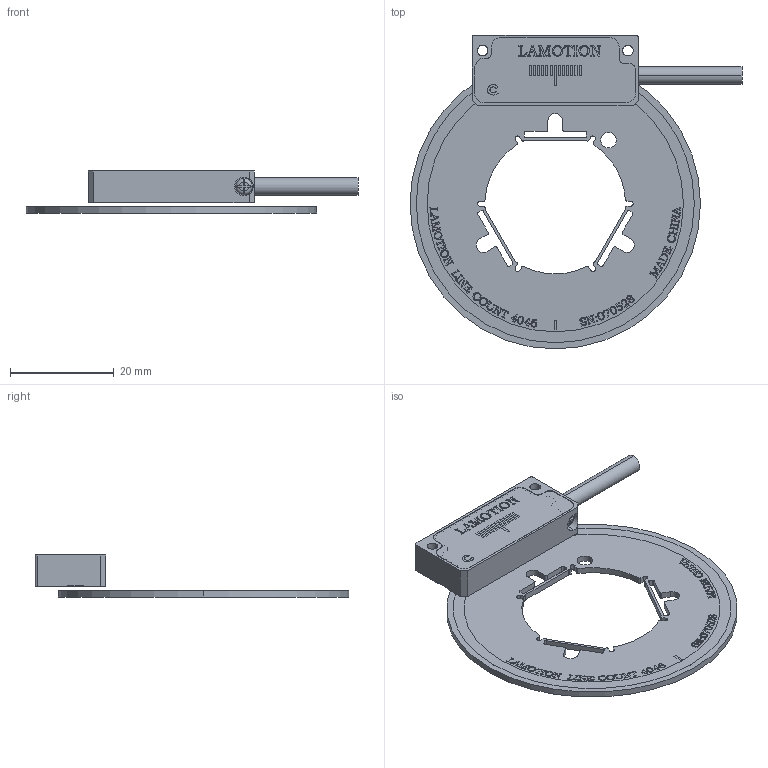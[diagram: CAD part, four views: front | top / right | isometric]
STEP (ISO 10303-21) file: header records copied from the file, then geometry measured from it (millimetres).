
FILE_DESCRIPTION (( 'STEP AP203' ), '1' );
FILE_NAME ('陔COIN+鎢攫蚾饜极 d56.STEP', '2024-08-22T01:23:24', ( '' ), ( '' ), 'SwSTEP 2.0', 'SolidWorks 2024', '' );
FILE_SCHEMA (( 'CONFIG_CONTROL_DESIGN' ));
Length unit declared in the file: millimetre
Products named in the file (7): LM018-002-01  打标; COIN  装配体 202405W; LM018-001-01 B 紧凑壳体; COIN线缆; 十字槽盘头螺钉 M2-2; CA40 56 X 24.5; 新COIN+码盘装配体 d56
Assembly tree (6 placements, depth 3):
  新COIN+码盘装配体 d56
    CA40 56 X 24.5
    COIN  装配体 202405W
      LM018-002-01  打标
      十字槽盘头螺钉 M2-2
      LM018-001-01 B 紧凑壳体
      COIN线缆
Bounding box: 64 x 60.5 x 8.1 mm (x, y, z)
Volume: 3347 mm3; surface area: 7169.3 mm2
Topology: 5 solids, 5 shells, 1323 faces, 3657 edges, 2428 vertices
Faces by surface type: plane 836, bspline 322, cylinder 155, cone 8, torus 2
Entity records: 59663 total; most frequent: CARTESIAN_POINT 27129, ORIENTED_EDGE 7306, DIRECTION 5291, EDGE_CURVE 3653, VECTOR 2659, LINE 2659, VERTEX_POINT 2428, EDGE_LOOP 1435
